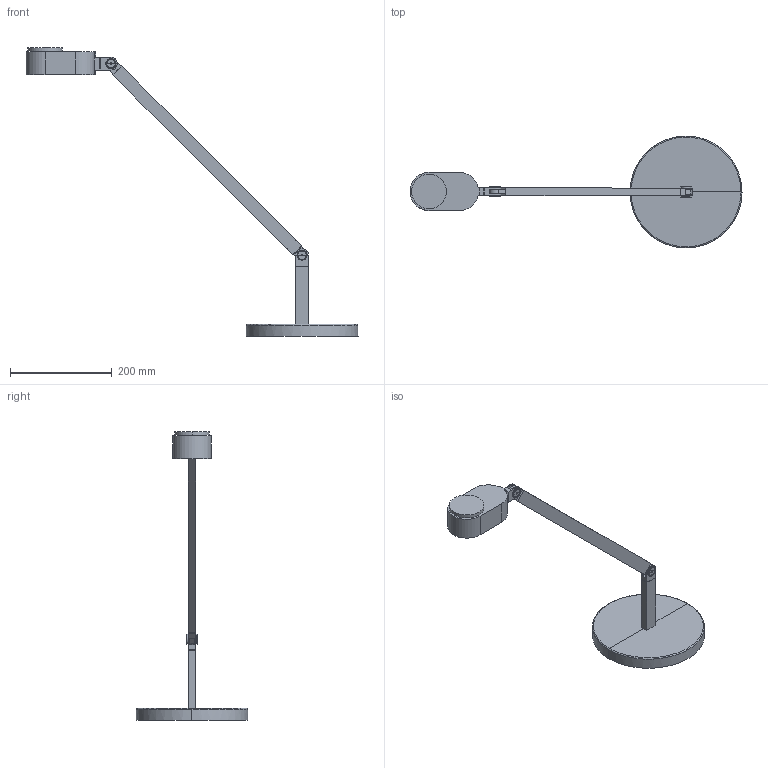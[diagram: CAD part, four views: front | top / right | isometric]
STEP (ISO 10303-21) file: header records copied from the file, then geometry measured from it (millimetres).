
FILE_DESCRIPTION(/* description */ (''),/* implementation_level */ '2;1');
FILE_NAME(/* name */ 'inviting_table.step',/* time_stamp */ '2025-03-11T16:20:53+01:00',/* author */ ('RenataManzini'),/* organization */ (''),/* preprocessor_version */ 'ST-DEVELOPER v20',/* originating_system */ 'AutoCAD Mechanical',/* authorisation */ '');
FILE_SCHEMA (('AUTOMOTIVE_DESIGN { 1 0 10303 214 3 1 1 }'));
Length unit declared in the file: millimetre
Products named in the file (4): Product; FamilyGeomCombination_632873-_3D_; FamilyGeomCombination_634609-_3D_; FamilyGeomCombination_635873-_3D_
Assembly tree (3 placements, depth 2):
  Product
    FamilyGeomCombination_632873-_3D_
    FamilyGeomCombination_634609-_3D_
    FamilyGeomCombination_635873-_3D_
Bounding box: 652.87 x 220 x 568.17 mm (x, y, z)
Volume: 1331605.3 mm3; surface area: 216410 mm2
Topology: 14 solids, 14 shells, 129 faces, 271 edges, 169 vertices
Faces by surface type: plane 88, cylinder 37, torus 4
Entity records: 3829 total; most frequent: CARTESIAN_POINT 957, DIRECTION 602, ORIENTED_EDGE 536, EDGE_CURVE 268, AXIS2_PLACEMENT_3D 207, LINE 188, VECTOR 188, VERTEX_POINT 164
